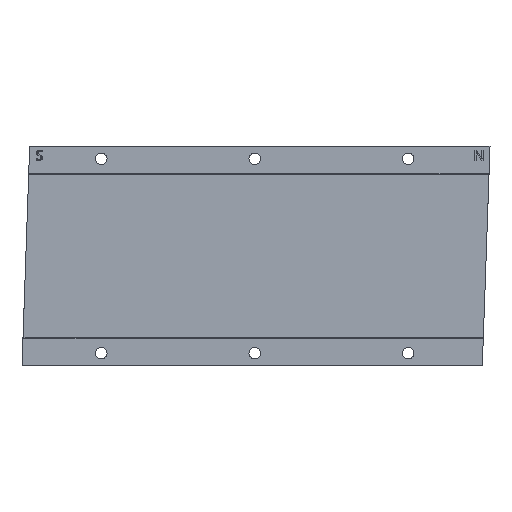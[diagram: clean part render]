
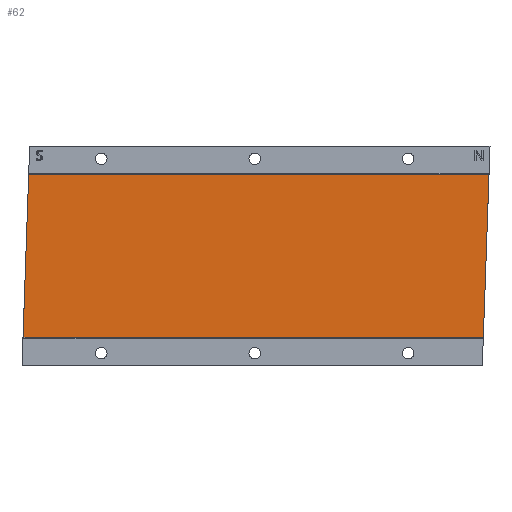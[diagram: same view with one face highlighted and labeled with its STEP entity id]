
A CAD part, front view. The second image highlights one B-rep face of the part: STEP entity #62.
In plain terms, the highlighted planar face has unit normal (0, -1, 0).
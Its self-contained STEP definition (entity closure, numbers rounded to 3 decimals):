
#62 = ADVANCED_FACE( '', ( #152 ), #153, .T. );
#152 = FACE_OUTER_BOUND( '', #288, .T. );
#153 = PLANE( '', #289 );
#288 = EDGE_LOOP( '', ( #432, #433, #434, #435 ) );
#289 = AXIS2_PLACEMENT_3D( '', #436, #437, #438 );
#432 = ORIENTED_EDGE( '', *, *, #821, .T. );
#433 = ORIENTED_EDGE( '', *, *, #822, .T. );
#434 = ORIENTED_EDGE( '', *, *, #823, .T. );
#435 = ORIENTED_EDGE( '', *, *, #824, .T. );
#436 = CARTESIAN_POINT( '', ( 0., -5.6, 0. ) );
#437 = DIRECTION( '', ( 0., -1., 0. ) );
#438 = DIRECTION( '', ( 0., 0., -1. ) );
#821 = EDGE_CURVE( '', #951, #952, #953, .T. );
#822 = EDGE_CURVE( '', #952, #954, #955, .T. );
#823 = EDGE_CURVE( '', #954, #956, #957, .T. );
#824 = EDGE_CURVE( '', #956, #951, #958, .T. );
#951 = VERTEX_POINT( '', #1155 );
#952 = VERTEX_POINT( '', #1156 );
#953 = LINE( '', #1157, #1158 );
#954 = VERTEX_POINT( '', #1159 );
#955 = LINE( '', #1160, #1161 );
#956 = VERTEX_POINT( '', #1162 );
#957 = LINE( '', #1163, #1164 );
#958 = LINE( '', #1165, #1166 );
#1155 = CARTESIAN_POINT( '', ( -174.191, -5.6, 33.158 ) );
#1156 = CARTESIAN_POINT( '', ( -176.41, -5.6, -30.442 ) );
#1157 = CARTESIAN_POINT( '', ( -174.177, -5.6, 33.558 ) );
#1158 = VECTOR( '', #1583, 1000. );
#1159 = CARTESIAN_POINT( '', ( 3.587, -5.6, -30.442 ) );
#1160 = CARTESIAN_POINT( '', ( 123.573, -5.6, -30.442 ) );
#1161 = VECTOR( '', #1584, 1000. );
#1162 = CARTESIAN_POINT( '', ( 5.808, -5.6, 33.158 ) );
#1163 = CARTESIAN_POINT( '', ( 3.573, -5.6, -30.842 ) );
#1164 = VECTOR( '', #1585, 1000. );
#1165 = CARTESIAN_POINT( '', ( -174.177, -5.6, 33.158 ) );
#1166 = VECTOR( '', #1586, 1000. );
#1583 = DIRECTION( '', ( -0.035, 0., -0.999 ) );
#1584 = DIRECTION( '', ( 1., 0., 0. ) );
#1585 = DIRECTION( '', ( 0.035, 0., 0.999 ) );
#1586 = DIRECTION( '', ( -1., 0., 0. ) );
